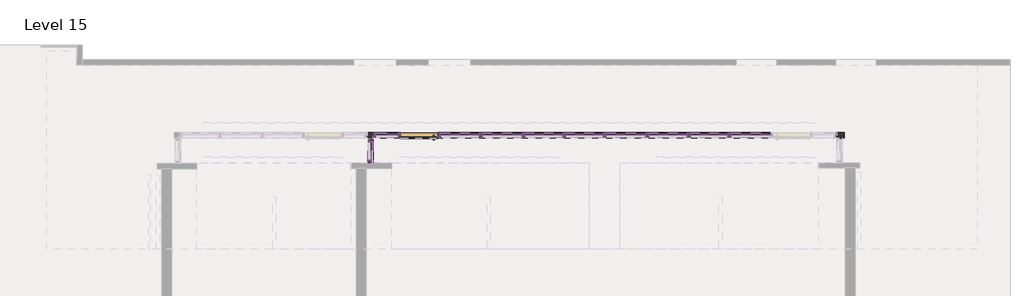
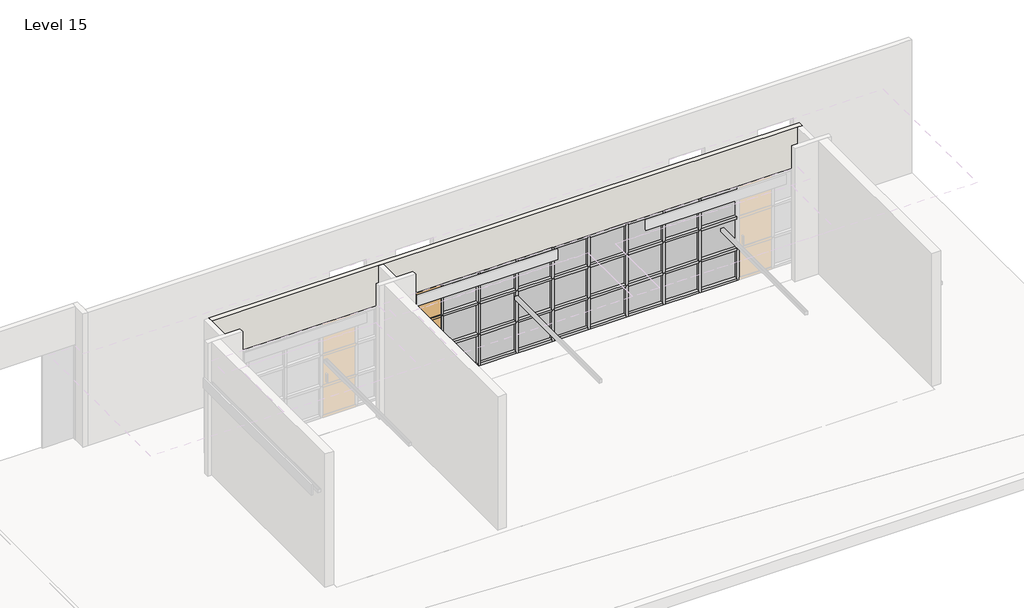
# One storey, part 5 of 11: 77 members, 29 plates, 1 door, 1 wall.
"""IFC4 building model written with IfcOpenShell, lengths in millimetres."""

from ifc_helpers import new_model, si_unit, origin, place, context, project, spatial, faceted_brep, transform, mapped, element, save
from components import door_curtain_wall_single_glass_door_curtain_wall_single_wood_ac3a5db4, member_954a25dd, member_69cae7f1, member_b7368e82, member_f689fba6, member_99b0d556, member_2928588c, member_aa254800, member_33497832, member_69a911c1, member_885614b3, member_020991e8, member_0ac0aea5, system_panel_glazed_5f2f0821, system_panel_glazed_e2c65910, system_panel_glazed_83a0b09a, system_panel_glazed_51162286, system_panel_glazed_2a5f2a92, system_panel_glazed_1e867d6b, system_panel_glazed_c1d42a29, system_panel_glazed_42c55a29, system_panel_glazed_f6bd2fbf, system_panel_glazed_d9492c6f

model = new_model("IFC4")

# Units and contexts
model_context = context("Model", 3, world=origin())
ifc_project = project(units=[si_unit("LENGTHUNIT", "METRE", prefix="MILLI")], contexts=[model_context])

# Site, building, storey
site = spatial("IfcSite", under=ifc_project)
building = spatial("IfcBuilding", under=site)
storey = spatial("IfcBuildingStorey", under=building, Name="Level 15", Elevation=51206.4)

# Door
placement = place(None, origin())
door_curtain_wall_single_glass_door_curtain_wall_single_wood_shape = door_curtain_wall_single_glass_door_curtain_wall_single_wood_ac3a5db4(model_context)
element("IfcDoor", 1, ObjectType="Door-Curtain-Wall-Single-Glass : Door-Curtain-Wall-Single-Wood", at=placement, inside=storey, context=model_context, shape_type="MappedRepresentation", body=[
    mapped(door_curtain_wall_single_glass_door_curtain_wall_single_wood_shape, transform((5157.8369657, 3036.0059951, 51206.4), x_axis=(-1.0, 0.0, 0.0), y_axis=(0.0, -1.0, 0.0), z_axis=(0.0, 0.0, 1.0))),
])

# Members
member_shape = member_954a25dd(model_context)
element("IfcMember", 2, ObjectType="Rectangular Mullion : 2.5\" x 5\" rectangular", at=placement, inside=storey, context=model_context, shape_type="MappedRepresentation", body=[
    mapped(member_shape, transform((4076.4264687, 3036.0059951, 51206.4), x_axis=(-1.0, 0.0, 0.0), y_axis=(0.0, 1.0, 0.0), z_axis=(0.0, 0.0, -1.0))),
])
element("IfcMember", 3, ObjectType="Rectangular Mullion : 2.5\" x 5\" rectangular", at=placement, inside=storey, context=model_context, shape_type="MappedRepresentation", body=[
    mapped(member_shape, transform((4027.5369657, 2953.5059951, 51206.4), x_axis=(0.0, 1.0, 0.0), y_axis=(1.0, 0.0, 0.0), z_axis=(0.0, 0.0, -1.0))),
])
element("IfcMember", 4, ObjectType="Rectangular Mullion : 2.5\" x 5\" rectangular", at=placement, inside=storey, context=model_context, shape_type="MappedRepresentation", body=[
    mapped(member_shape, transform((4027.5369657, 2394.7059951, 53804.1570075), x_axis=(0.0, -1.0, 0.0), y_axis=(1.0, 0.0, 0.0), z_axis=(0.0, 0.0, 1.0))),
])
member_2_shape = member_69cae7f1(model_context)
element("IfcMember", 5, ObjectType="Rectangular Mullion : 2.5\" x 5\" rectangular", at=placement, inside=storey, context=model_context, shape_type="MappedRepresentation", body=[
    mapped(member_2_shape, transform((4700.6369657, 3036.0059951, 51206.4), x_axis=(-1.0, 0.0, 0.0), y_axis=(0.0, 1.0, 0.0), z_axis=(0.0, 0.0, -1.0))),
])
element("IfcMember", 6, ObjectType="Rectangular Mullion : 2.5\" x 5\" rectangular", at=placement, inside=storey, context=model_context, shape_type="MappedRepresentation", body=[
    mapped(member_2_shape, transform((5615.0369657, 3036.0059951, 51206.4), x_axis=(-1.0, 0.0, 0.0), y_axis=(0.0, 1.0, 0.0), z_axis=(0.0, 0.0, -1.0))),
])
element("IfcMember", 7, ObjectType="Rectangular Mullion : 2.5\" x 5\" rectangular", at=placement, inside=storey, context=model_context, shape_type="MappedRepresentation", body=[
    mapped(member_2_shape, transform((6580.2369657, 3036.0059951, 51206.4), x_axis=(-1.0, 0.0, 0.0), y_axis=(0.0, 1.0, 0.0), z_axis=(0.0, 0.0, -1.0))),
])
element("IfcMember", 8, ObjectType="Rectangular Mullion : 2.5\" x 5\" rectangular", at=placement, inside=storey, context=model_context, shape_type="MappedRepresentation", body=[
    mapped(member_2_shape, transform((7570.8369657, 3036.0059951, 51206.4), x_axis=(-1.0, 0.0, 0.0), y_axis=(0.0, 1.0, 0.0), z_axis=(0.0, 0.0, -1.0))),
])
element("IfcMember", 9, ObjectType="Rectangular Mullion : 2.5\" x 5\" rectangular", at=placement, inside=storey, context=model_context, shape_type="MappedRepresentation", body=[
    mapped(member_2_shape, transform((8510.6369657, 3036.0059951, 51206.4), x_axis=(-1.0, 0.0, 0.0), y_axis=(0.0, 1.0, 0.0), z_axis=(0.0, 0.0, -1.0))),
])
element("IfcMember", 10, ObjectType="Rectangular Mullion : 2.5\" x 5\" rectangular", at=placement, inside=storey, context=model_context, shape_type="MappedRepresentation", body=[
    mapped(member_2_shape, transform((9450.4369657, 3036.0059951, 51206.4), x_axis=(-1.0, 0.0, 0.0), y_axis=(0.0, 1.0, 0.0), z_axis=(0.0, 0.0, -1.0))),
])
element("IfcMember", 11, ObjectType="Rectangular Mullion : 2.5\" x 5\" rectangular", at=placement, inside=storey, context=model_context, shape_type="MappedRepresentation", body=[
    mapped(member_2_shape, transform((10441.0369657, 3036.0059951, 51206.4), x_axis=(-1.0, 0.0, 0.0), y_axis=(0.0, 1.0, 0.0), z_axis=(0.0, 0.0, -1.0))),
])
element("IfcMember", 12, ObjectType="Rectangular Mullion : 2.5\" x 5\" rectangular", at=placement, inside=storey, context=model_context, shape_type="MappedRepresentation", body=[
    mapped(member_2_shape, transform((11406.2369657, 3036.0059951, 51206.4), x_axis=(-1.0, 0.0, 0.0), y_axis=(0.0, 1.0, 0.0), z_axis=(0.0, 0.0, -1.0))),
])
element("IfcMember", 13, ObjectType="Rectangular Mullion : 2.5\" x 5\" rectangular", at=placement, inside=storey, context=model_context, shape_type="MappedRepresentation", body=[
    mapped(member_2_shape, transform((12346.0369657, 3036.0059951, 51206.4), x_axis=(-1.0, 0.0, 0.0), y_axis=(0.0, 1.0, 0.0), z_axis=(0.0, 0.0, -1.0))),
])
element("IfcMember", 14, ObjectType="Rectangular Mullion : 2.5\" x 5\" rectangular", at=placement, inside=storey, context=model_context, shape_type="MappedRepresentation", body=[
    mapped(member_2_shape, transform((13336.6369657, 3036.0059951, 51206.4), x_axis=(-1.0, 0.0, 0.0), y_axis=(0.0, 1.0, 0.0), z_axis=(0.0, 0.0, -1.0))),
])
member_3_shape = member_b7368e82(model_context)
element("IfcMember", 15, ObjectType="Rectangular Mullion : 2.5\" x 5\" rectangular", at=placement, inside=storey, context=model_context, shape_type="MappedRepresentation", body=[
    mapped(member_3_shape, transform((5646.7869657, 3036.0059951, 53804.1570075), x_axis=(0.0, 0.0, 1.0), y_axis=(0.0, 1.0, 0.0), z_axis=(-1.0, 0.0, 0.0))),
])
element("IfcMember", 16, ObjectType="Rectangular Mullion : 2.5\" x 5\" rectangular", at=placement, inside=storey, context=model_context, shape_type="MappedRepresentation", body=[
    mapped(member_3_shape, transform((10472.7869657, 3036.0059951, 53804.1570075), x_axis=(0.0, 0.0, 1.0), y_axis=(0.0, 1.0, 0.0), z_axis=(-1.0, 0.0, 0.0))),
])
member_4_shape = member_f689fba6(model_context)
element("IfcMember", 17, ObjectType="Rectangular Mullion : 2.5\" x 5\" rectangular", at=placement, inside=storey, context=model_context, shape_type="MappedRepresentation", body=[
    mapped(member_4_shape, transform((6611.9869657, 3036.0059951, 53804.1570075), x_axis=(0.0, 0.0, 1.0), y_axis=(0.0, 1.0, 0.0), z_axis=(-1.0, 0.0, 0.0))),
])
element("IfcMember", 18, ObjectType="Rectangular Mullion : 2.5\" x 5\" rectangular", at=placement, inside=storey, context=model_context, shape_type="MappedRepresentation", body=[
    mapped(member_4_shape, transform((9482.1869657, 3036.0059951, 53804.1570075), x_axis=(0.0, 0.0, 1.0), y_axis=(0.0, 1.0, 0.0), z_axis=(-1.0, 0.0, 0.0))),
])
element("IfcMember", 19, ObjectType="Rectangular Mullion : 2.5\" x 5\" rectangular", at=placement, inside=storey, context=model_context, shape_type="MappedRepresentation", body=[
    mapped(member_4_shape, transform((12377.7869657, 3036.0059951, 53804.1570075), x_axis=(0.0, 0.0, 1.0), y_axis=(0.0, 1.0, 0.0), z_axis=(-1.0, 0.0, 0.0))),
])
element("IfcMember", 20, ObjectType="Rectangular Mullion : 2.5\" x 5\" rectangular", at=placement, inside=storey, context=model_context, shape_type="MappedRepresentation", body=[
    mapped(member_3_shape, transform((6548.4869657, 3036.0059951, 51206.4), x_axis=(0.0, 0.0, -1.0), y_axis=(0.0, 1.0, 0.0), z_axis=(1.0, 0.0, 0.0))),
])
element("IfcMember", 21, ObjectType="Rectangular Mullion : 2.5\" x 5\" rectangular", at=placement, inside=storey, context=model_context, shape_type="MappedRepresentation", body=[
    mapped(member_3_shape, transform((11374.4869657, 3036.0059951, 51206.4), x_axis=(0.0, 0.0, -1.0), y_axis=(0.0, 1.0, 0.0), z_axis=(1.0, 0.0, 0.0))),
])
member_5_shape = member_99b0d556(model_context)
element("IfcMember", 22, ObjectType="Rectangular Mullion : 2.5\" x 5\" rectangular", at=placement, inside=storey, context=model_context, shape_type="MappedRepresentation", body=[
    mapped(member_5_shape, transform((7602.5869657, 3036.0059951, 53804.1570075), x_axis=(0.0, 0.0, 1.0), y_axis=(0.0, 1.0, 0.0), z_axis=(-1.0, 0.0, 0.0))),
])
element("IfcMember", 23, ObjectType="Rectangular Mullion : 2.5\" x 5\" rectangular", at=placement, inside=storey, context=model_context, shape_type="MappedRepresentation", body=[
    mapped(member_5_shape, transform((8542.3869657, 3036.0059951, 53804.1570075), x_axis=(0.0, 0.0, 1.0), y_axis=(0.0, 1.0, 0.0), z_axis=(-1.0, 0.0, 0.0))),
])
element("IfcMember", 24, ObjectType="Rectangular Mullion : 2.5\" x 5\" rectangular", at=placement, inside=storey, context=model_context, shape_type="MappedRepresentation", body=[
    mapped(member_5_shape, transform((11437.9869657, 3036.0059951, 53804.1570075), x_axis=(0.0, 0.0, 1.0), y_axis=(0.0, 1.0, 0.0), z_axis=(-1.0, 0.0, 0.0))),
])
element("IfcMember", 25, ObjectType="Rectangular Mullion : 2.5\" x 5\" rectangular", at=placement, inside=storey, context=model_context, shape_type="MappedRepresentation", body=[
    mapped(member_4_shape, transform((7539.0869657, 3036.0059951, 51206.4), x_axis=(0.0, 0.0, -1.0), y_axis=(0.0, 1.0, 0.0), z_axis=(1.0, 0.0, 0.0))),
])
element("IfcMember", 26, ObjectType="Rectangular Mullion : 2.5\" x 5\" rectangular", at=placement, inside=storey, context=model_context, shape_type="MappedRepresentation", body=[
    mapped(member_4_shape, transform((10409.2869657, 3036.0059951, 51206.4), x_axis=(0.0, 0.0, -1.0), y_axis=(0.0, 1.0, 0.0), z_axis=(1.0, 0.0, 0.0))),
])
element("IfcMember", 27, ObjectType="Rectangular Mullion : 2.5\" x 5\" rectangular", at=placement, inside=storey, context=model_context, shape_type="MappedRepresentation", body=[
    mapped(member_4_shape, transform((13304.8869657, 3036.0059951, 51206.4), x_axis=(0.0, 0.0, -1.0), y_axis=(0.0, 1.0, 0.0), z_axis=(1.0, 0.0, 0.0))),
])
element("IfcMember", 28, ObjectType="Rectangular Mullion : 2.5\" x 5\" rectangular", at=placement, inside=storey, context=model_context, shape_type="MappedRepresentation", body=[
    mapped(member_5_shape, transform((8478.8869657, 3036.0059951, 51206.4), x_axis=(0.0, 0.0, -1.0), y_axis=(0.0, 1.0, 0.0), z_axis=(1.0, 0.0, 0.0))),
])
element("IfcMember", 29, ObjectType="Rectangular Mullion : 2.5\" x 5\" rectangular", at=placement, inside=storey, context=model_context, shape_type="MappedRepresentation", body=[
    mapped(member_5_shape, transform((9418.6869657, 3036.0059951, 51206.4), x_axis=(0.0, 0.0, -1.0), y_axis=(0.0, 1.0, 0.0), z_axis=(1.0, 0.0, 0.0))),
])
element("IfcMember", 30, ObjectType="Rectangular Mullion : 2.5\" x 5\" rectangular", at=placement, inside=storey, context=model_context, shape_type="MappedRepresentation", body=[
    mapped(member_5_shape, transform((12314.2869657, 3036.0059951, 51206.4), x_axis=(0.0, 0.0, -1.0), y_axis=(0.0, 1.0, 0.0), z_axis=(1.0, 0.0, 0.0))),
])
member_6_shape = member_2928588c(model_context)
element("IfcMember", 31, ObjectType="Rectangular Mullion : 2.5\" x 5\" rectangular", at=placement, inside=storey, context=model_context, shape_type="MappedRepresentation", body=[
    mapped(member_6_shape, transform((12377.7869657, 3036.0059951, 52938.238005), x_axis=(0.0, 0.0, 1.0), y_axis=(0.0, 1.0, 0.0), z_axis=(-1.0, 0.0, 0.0))),
])
element("IfcMember", 32, ObjectType="Rectangular Mullion : 2.5\" x 5\" rectangular", at=placement, inside=storey, context=model_context, shape_type="MappedRepresentation", body=[
    mapped(member_6_shape, transform((9482.1869657, 3036.0059951, 52938.238005), x_axis=(0.0, 0.0, 1.0), y_axis=(0.0, 1.0, 0.0), z_axis=(-1.0, 0.0, 0.0))),
])
element("IfcMember", 33, ObjectType="Rectangular Mullion : 2.5\" x 5\" rectangular", at=placement, inside=storey, context=model_context, shape_type="MappedRepresentation", body=[
    mapped(member_6_shape, transform((6611.9869657, 3036.0059951, 52938.238005), x_axis=(0.0, 0.0, 1.0), y_axis=(0.0, 1.0, 0.0), z_axis=(-1.0, 0.0, 0.0))),
])
element("IfcMember", 34, ObjectType="Rectangular Mullion : 2.5\" x 5\" rectangular", at=placement, inside=storey, context=model_context, shape_type="MappedRepresentation", body=[
    mapped(member_6_shape, transform((12377.7869657, 3036.0059951, 52072.3190025), x_axis=(0.0, 0.0, 1.0), y_axis=(0.0, 1.0, 0.0), z_axis=(-1.0, 0.0, 0.0))),
])
element("IfcMember", 35, ObjectType="Rectangular Mullion : 2.5\" x 5\" rectangular", at=placement, inside=storey, context=model_context, shape_type="MappedRepresentation", body=[
    mapped(member_6_shape, transform((9482.1869657, 3036.0059951, 52072.3190025), x_axis=(0.0, 0.0, 1.0), y_axis=(0.0, 1.0, 0.0), z_axis=(-1.0, 0.0, 0.0))),
])
element("IfcMember", 36, ObjectType="Rectangular Mullion : 2.5\" x 5\" rectangular", at=placement, inside=storey, context=model_context, shape_type="MappedRepresentation", body=[
    mapped(member_6_shape, transform((6611.9869657, 3036.0059951, 52072.3190025), x_axis=(0.0, 0.0, 1.0), y_axis=(0.0, 1.0, 0.0), z_axis=(-1.0, 0.0, 0.0))),
])
member_7_shape = member_aa254800(model_context)
element("IfcMember", 37, ObjectType="Rectangular Mullion : 2.5\" x 5\" rectangular", at=placement, inside=storey, context=model_context, shape_type="MappedRepresentation", body=[
    mapped(member_7_shape, transform((11437.9869657, 3036.0059951, 52938.238005), x_axis=(0.0, 0.0, 1.0), y_axis=(0.0, 1.0, 0.0), z_axis=(-1.0, 0.0, 0.0))),
])
element("IfcMember", 38, ObjectType="Rectangular Mullion : 2.5\" x 5\" rectangular", at=placement, inside=storey, context=model_context, shape_type="MappedRepresentation", body=[
    mapped(member_7_shape, transform((8542.3869657, 3036.0059951, 52938.238005), x_axis=(0.0, 0.0, 1.0), y_axis=(0.0, 1.0, 0.0), z_axis=(-1.0, 0.0, 0.0))),
])
element("IfcMember", 39, ObjectType="Rectangular Mullion : 2.5\" x 5\" rectangular", at=placement, inside=storey, context=model_context, shape_type="MappedRepresentation", body=[
    mapped(member_7_shape, transform((7602.5869657, 3036.0059951, 52938.238005), x_axis=(0.0, 0.0, 1.0), y_axis=(0.0, 1.0, 0.0), z_axis=(-1.0, 0.0, 0.0))),
])
element("IfcMember", 40, ObjectType="Rectangular Mullion : 2.5\" x 5\" rectangular", at=placement, inside=storey, context=model_context, shape_type="MappedRepresentation", body=[
    mapped(member_7_shape, transform((11437.9869657, 3036.0059951, 52072.3190025), x_axis=(0.0, 0.0, 1.0), y_axis=(0.0, 1.0, 0.0), z_axis=(-1.0, 0.0, 0.0))),
])
element("IfcMember", 41, ObjectType="Rectangular Mullion : 2.5\" x 5\" rectangular", at=placement, inside=storey, context=model_context, shape_type="MappedRepresentation", body=[
    mapped(member_7_shape, transform((8542.3869657, 3036.0059951, 52072.3190025), x_axis=(0.0, 0.0, 1.0), y_axis=(0.0, 1.0, 0.0), z_axis=(-1.0, 0.0, 0.0))),
])
element("IfcMember", 42, ObjectType="Rectangular Mullion : 2.5\" x 5\" rectangular", at=placement, inside=storey, context=model_context, shape_type="MappedRepresentation", body=[
    mapped(member_7_shape, transform((7602.5869657, 3036.0059951, 52072.3190025), x_axis=(0.0, 0.0, 1.0), y_axis=(0.0, 1.0, 0.0), z_axis=(-1.0, 0.0, 0.0))),
])
member_8_shape = member_33497832(model_context)
element("IfcMember", 43, ObjectType="Rectangular Mullion : 2.5\" x 5\" rectangular", at=placement, inside=storey, context=model_context, shape_type="MappedRepresentation", body=[
    mapped(member_8_shape, transform((10472.7869657, 3036.0059951, 52938.238005), x_axis=(0.0, 0.0, 1.0), y_axis=(0.0, 1.0, 0.0), z_axis=(-1.0, 0.0, 0.0))),
])
element("IfcMember", 44, ObjectType="Rectangular Mullion : 2.5\" x 5\" rectangular", at=placement, inside=storey, context=model_context, shape_type="MappedRepresentation", body=[
    mapped(member_8_shape, transform((5646.7869657, 3036.0059951, 52938.238005), x_axis=(0.0, 0.0, 1.0), y_axis=(0.0, 1.0, 0.0), z_axis=(-1.0, 0.0, 0.0))),
])
element("IfcMember", 45, ObjectType="Rectangular Mullion : 2.5\" x 5\" rectangular", at=placement, inside=storey, context=model_context, shape_type="MappedRepresentation", body=[
    mapped(member_8_shape, transform((10472.7869657, 3036.0059951, 52072.3190025), x_axis=(0.0, 0.0, 1.0), y_axis=(0.0, 1.0, 0.0), z_axis=(-1.0, 0.0, 0.0))),
])
element("IfcMember", 46, ObjectType="Rectangular Mullion : 2.5\" x 5\" rectangular", at=placement, inside=storey, context=model_context, shape_type="MappedRepresentation", body=[
    mapped(member_8_shape, transform((5646.7869657, 3036.0059951, 52072.3190025), x_axis=(0.0, 0.0, 1.0), y_axis=(0.0, 1.0, 0.0), z_axis=(-1.0, 0.0, 0.0))),
])
element("IfcMember", 47, ObjectType="Rectangular Mullion : 2.5\" x 5\" rectangular", at=placement, inside=storey, context=model_context, shape_type="MappedRepresentation", body=[
    mapped(member_2_shape, transform((12346.0369657, 3036.0059951, 52938.238005), x_axis=(-1.0, 0.0, 0.0), y_axis=(0.0, 1.0, 0.0), z_axis=(0.0, 0.0, -1.0))),
])
element("IfcMember", 48, ObjectType="Rectangular Mullion : 2.5\" x 5\" rectangular", at=placement, inside=storey, context=model_context, shape_type="MappedRepresentation", body=[
    mapped(member_2_shape, transform((11406.2369657, 3036.0059951, 52938.238005), x_axis=(-1.0, 0.0, 0.0), y_axis=(0.0, 1.0, 0.0), z_axis=(0.0, 0.0, -1.0))),
])
element("IfcMember", 49, ObjectType="Rectangular Mullion : 2.5\" x 5\" rectangular", at=placement, inside=storey, context=model_context, shape_type="MappedRepresentation", body=[
    mapped(member_2_shape, transform((10441.0369657, 3036.0059951, 52938.238005), x_axis=(-1.0, 0.0, 0.0), y_axis=(0.0, 1.0, 0.0), z_axis=(0.0, 0.0, -1.0))),
])
element("IfcMember", 50, ObjectType="Rectangular Mullion : 2.5\" x 5\" rectangular", at=placement, inside=storey, context=model_context, shape_type="MappedRepresentation", body=[
    mapped(member_2_shape, transform((9450.4369657, 3036.0059951, 52938.238005), x_axis=(-1.0, 0.0, 0.0), y_axis=(0.0, 1.0, 0.0), z_axis=(0.0, 0.0, -1.0))),
])
element("IfcMember", 51, ObjectType="Rectangular Mullion : 2.5\" x 5\" rectangular", at=placement, inside=storey, context=model_context, shape_type="MappedRepresentation", body=[
    mapped(member_2_shape, transform((8510.6369657, 3036.0059951, 52938.238005), x_axis=(-1.0, 0.0, 0.0), y_axis=(0.0, 1.0, 0.0), z_axis=(0.0, 0.0, -1.0))),
])
element("IfcMember", 52, ObjectType="Rectangular Mullion : 2.5\" x 5\" rectangular", at=placement, inside=storey, context=model_context, shape_type="MappedRepresentation", body=[
    mapped(member_2_shape, transform((7570.8369657, 3036.0059951, 52938.238005), x_axis=(-1.0, 0.0, 0.0), y_axis=(0.0, 1.0, 0.0), z_axis=(0.0, 0.0, -1.0))),
])
element("IfcMember", 53, ObjectType="Rectangular Mullion : 2.5\" x 5\" rectangular", at=placement, inside=storey, context=model_context, shape_type="MappedRepresentation", body=[
    mapped(member_2_shape, transform((6580.2369657, 3036.0059951, 52938.238005), x_axis=(-1.0, 0.0, 0.0), y_axis=(0.0, 1.0, 0.0), z_axis=(0.0, 0.0, -1.0))),
])
element("IfcMember", 54, ObjectType="Rectangular Mullion : 2.5\" x 5\" rectangular", at=placement, inside=storey, context=model_context, shape_type="MappedRepresentation", body=[
    mapped(member_2_shape, transform((5615.0369657, 3036.0059951, 52938.238005), x_axis=(-1.0, 0.0, 0.0), y_axis=(0.0, 1.0, 0.0), z_axis=(0.0, 0.0, -1.0))),
])
element("IfcMember", 55, ObjectType="Rectangular Mullion : 2.5\" x 5\" rectangular", at=placement, inside=storey, context=model_context, shape_type="MappedRepresentation", body=[
    mapped(member_2_shape, transform((4700.6369657, 3036.0059951, 52938.238005), x_axis=(-1.0, 0.0, 0.0), y_axis=(0.0, 1.0, 0.0), z_axis=(0.0, 0.0, -1.0))),
])
element("IfcMember", 56, ObjectType="Rectangular Mullion : 2.5\" x 5\" rectangular", at=placement, inside=storey, context=model_context, shape_type="MappedRepresentation", body=[
    mapped(member_2_shape, transform((12346.0369657, 3036.0059951, 52072.3190025), x_axis=(-1.0, 0.0, 0.0), y_axis=(0.0, 1.0, 0.0), z_axis=(0.0, 0.0, -1.0))),
])
element("IfcMember", 57, ObjectType="Rectangular Mullion : 2.5\" x 5\" rectangular", at=placement, inside=storey, context=model_context, shape_type="MappedRepresentation", body=[
    mapped(member_2_shape, transform((11406.2369657, 3036.0059951, 52072.3190025), x_axis=(-1.0, 0.0, 0.0), y_axis=(0.0, 1.0, 0.0), z_axis=(0.0, 0.0, -1.0))),
])
element("IfcMember", 58, ObjectType="Rectangular Mullion : 2.5\" x 5\" rectangular", at=placement, inside=storey, context=model_context, shape_type="MappedRepresentation", body=[
    mapped(member_2_shape, transform((10441.0369657, 3036.0059951, 52072.3190025), x_axis=(-1.0, 0.0, 0.0), y_axis=(0.0, 1.0, 0.0), z_axis=(0.0, 0.0, -1.0))),
])
element("IfcMember", 59, ObjectType="Rectangular Mullion : 2.5\" x 5\" rectangular", at=placement, inside=storey, context=model_context, shape_type="MappedRepresentation", body=[
    mapped(member_2_shape, transform((9450.4369657, 3036.0059951, 52072.3190025), x_axis=(-1.0, 0.0, 0.0), y_axis=(0.0, 1.0, 0.0), z_axis=(0.0, 0.0, -1.0))),
])
element("IfcMember", 60, ObjectType="Rectangular Mullion : 2.5\" x 5\" rectangular", at=placement, inside=storey, context=model_context, shape_type="MappedRepresentation", body=[
    mapped(member_2_shape, transform((8510.6369657, 3036.0059951, 52072.3190025), x_axis=(-1.0, 0.0, 0.0), y_axis=(0.0, 1.0, 0.0), z_axis=(0.0, 0.0, -1.0))),
])
element("IfcMember", 61, ObjectType="Rectangular Mullion : 2.5\" x 5\" rectangular", at=placement, inside=storey, context=model_context, shape_type="MappedRepresentation", body=[
    mapped(member_2_shape, transform((7570.8369657, 3036.0059951, 52072.3190025), x_axis=(-1.0, 0.0, 0.0), y_axis=(0.0, 1.0, 0.0), z_axis=(0.0, 0.0, -1.0))),
])
element("IfcMember", 62, ObjectType="Rectangular Mullion : 2.5\" x 5\" rectangular", at=placement, inside=storey, context=model_context, shape_type="MappedRepresentation", body=[
    mapped(member_2_shape, transform((6580.2369657, 3036.0059951, 52072.3190025), x_axis=(-1.0, 0.0, 0.0), y_axis=(0.0, 1.0, 0.0), z_axis=(0.0, 0.0, -1.0))),
])
element("IfcMember", 63, ObjectType="Rectangular Mullion : 2.5\" x 5\" rectangular", at=placement, inside=storey, context=model_context, shape_type="MappedRepresentation", body=[
    mapped(member_2_shape, transform((5615.0369657, 3036.0059951, 52072.3190025), x_axis=(-1.0, 0.0, 0.0), y_axis=(0.0, 1.0, 0.0), z_axis=(0.0, 0.0, -1.0))),
])
element("IfcMember", 64, ObjectType="Rectangular Mullion : 2.5\" x 5\" rectangular", at=placement, inside=storey, context=model_context, shape_type="MappedRepresentation", body=[
    mapped(member_2_shape, transform((4700.6369657, 3036.0059951, 52072.3190025), x_axis=(-1.0, 0.0, 0.0), y_axis=(0.0, 1.0, 0.0), z_axis=(0.0, 0.0, -1.0))),
])
member_9_shape = member_69a911c1(model_context)
element("IfcMember", 65, ObjectType="Rectangular Mullion : 2.5\" x 5\" rectangular", at=placement, inside=storey, context=model_context, shape_type="MappedRepresentation", body=[
    mapped(member_9_shape, transform((4027.5369657, 2890.0059951, 53804.1570075), x_axis=(0.0, 0.0, 1.0), y_axis=(1.0, 0.0, 0.0), z_axis=(0.0, 1.0, 0.0))),
])
element("IfcMember", 66, ObjectType="Rectangular Mullion : 2.5\" x 5\" rectangular", at=placement, inside=storey, context=model_context, shape_type="MappedRepresentation", body=[
    mapped(member_9_shape, transform((4027.5369657, 2458.2059951, 51206.4), x_axis=(0.0, 0.0, -1.0), y_axis=(1.0, 0.0, 0.0), z_axis=(0.0, -1.0, 0.0))),
])
member_10_shape = member_885614b3(model_context)
element("IfcMember", 67, ObjectType="Rectangular Mullion : 2.5\" x 5\" rectangular", at=placement, inside=storey, context=model_context, shape_type="MappedRepresentation", body=[
    mapped(member_10_shape, transform((4027.5369657, 2890.0059951, 52938.238005), x_axis=(0.0, 0.0, 1.0), y_axis=(1.0, 0.0, 0.0), z_axis=(0.0, 1.0, 0.0))),
])
element("IfcMember", 68, ObjectType="Rectangular Mullion : 2.5\" x 5\" rectangular", at=placement, inside=storey, context=model_context, shape_type="MappedRepresentation", body=[
    mapped(member_10_shape, transform((4027.5369657, 2890.0059951, 52072.3190025), x_axis=(0.0, 0.0, 1.0), y_axis=(1.0, 0.0, 0.0), z_axis=(0.0, 1.0, 0.0))),
])
element("IfcMember", 69, ObjectType="Rectangular Mullion : 2.5\" x 5\" rectangular", at=placement, inside=storey, context=model_context, shape_type="MappedRepresentation", body=[
    mapped(member_shape, transform((4076.4264687, 3036.0059951, 52938.238005), x_axis=(-1.0, 0.0, 0.0), y_axis=(0.0, 1.0, 0.0), z_axis=(0.0, 0.0, -1.0))),
])
element("IfcMember", 70, ObjectType="Rectangular Mullion : 2.5\" x 5\" rectangular", at=placement, inside=storey, context=model_context, shape_type="MappedRepresentation", body=[
    mapped(member_shape, transform((4027.5369657, 2953.5059951, 52938.238005), x_axis=(0.0, 1.0, 0.0), y_axis=(1.0, 0.0, 0.0), z_axis=(0.0, 0.0, -1.0))),
])
element("IfcMember", 71, ObjectType="Rectangular Mullion : 2.5\" x 5\" rectangular", at=placement, inside=storey, context=model_context, shape_type="MappedRepresentation", body=[
    mapped(member_shape, transform((4027.5369657, 2394.7059951, 52938.238005), x_axis=(0.0, -1.0, 0.0), y_axis=(1.0, 0.0, 0.0), z_axis=(0.0, 0.0, 1.0))),
])
element("IfcMember", 72, ObjectType="Rectangular Mullion : 2.5\" x 5\" rectangular", at=placement, inside=storey, context=model_context, shape_type="MappedRepresentation", body=[
    mapped(member_shape, transform((4076.4264687, 3036.0059951, 52072.3190025), x_axis=(-1.0, 0.0, 0.0), y_axis=(0.0, 1.0, 0.0), z_axis=(0.0, 0.0, -1.0))),
])
element("IfcMember", 73, ObjectType="Rectangular Mullion : 2.5\" x 5\" rectangular", at=placement, inside=storey, context=model_context, shape_type="MappedRepresentation", body=[
    mapped(member_shape, transform((4027.5369657, 2953.5059951, 52072.3190025), x_axis=(0.0, 1.0, 0.0), y_axis=(1.0, 0.0, 0.0), z_axis=(0.0, 0.0, -1.0))),
])
element("IfcMember", 74, ObjectType="Rectangular Mullion : 2.5\" x 5\" rectangular", at=placement, inside=storey, context=model_context, shape_type="MappedRepresentation", body=[
    mapped(member_shape, transform((4027.5369657, 2394.7059951, 52072.3190025), x_axis=(0.0, -1.0, 0.0), y_axis=(1.0, 0.0, 0.0), z_axis=(0.0, 0.0, 1.0))),
])
member_11_shape = member_020991e8(model_context)
element("IfcMember", 75, ObjectType="Rectangular Mullion : 2.5\" x 5\" rectangular", at=placement, inside=storey, context=model_context, shape_type="MappedRepresentation", body=[
    mapped(member_11_shape, transform((4139.9264687, 3036.0059951, 53804.1570075), x_axis=(0.0, 0.0, 1.0), y_axis=(0.0, 1.0, 0.0), z_axis=(-1.0, 0.0, 0.0))),
])
element("IfcMember", 76, ObjectType="Rectangular Mullion : 2.5\" x 5\" rectangular", at=placement, inside=storey, context=model_context, shape_type="MappedRepresentation", body=[
    mapped(member_11_shape, transform((4668.8869657, 3036.0059951, 51206.4), x_axis=(0.0, 0.0, -1.0), y_axis=(0.0, 1.0, 0.0), z_axis=(1.0, 0.0, 0.0))),
])
member_12_shape = member_0ac0aea5(model_context)
element("IfcMember", 77, ObjectType="Rectangular Mullion : 2.5\" x 5\" rectangular", at=placement, inside=storey, context=model_context, shape_type="MappedRepresentation", body=[
    mapped(member_12_shape, transform((4139.9264687, 3036.0059951, 52938.238005), x_axis=(0.0, 0.0, 1.0), y_axis=(0.0, 1.0, 0.0), z_axis=(-1.0, 0.0, 0.0))),
])
element("IfcMember", 78, ObjectType="Rectangular Mullion : 2.5\" x 5\" rectangular", at=placement, inside=storey, context=model_context, shape_type="MappedRepresentation", body=[
    mapped(member_12_shape, transform((4139.9264687, 3036.0059951, 52072.3190025), x_axis=(0.0, 0.0, 1.0), y_axis=(0.0, 1.0, 0.0), z_axis=(-1.0, 0.0, 0.0))),
])

# Plates
system_panel_glazed_shape = system_panel_glazed_5f2f0821(model_context)
element("IfcPlate", 79, ObjectType="System Panel : Glazed", at=placement, inside=storey, context=model_context, shape_type="MappedRepresentation", body=[
    mapped(system_panel_glazed_shape, transform((4027.5369657, 2674.1059951, 52969.988005), x_axis=(0.0, 1.0, 0.0), y_axis=(-1.0, 0.0, 0.0), z_axis=(0.0, 0.0, 1.0))),
])
system_panel_glazed_2_shape = system_panel_glazed_e2c65910(model_context)
element("IfcPlate", 80, ObjectType="System Panel : Glazed", at=placement, inside=storey, context=model_context, shape_type="MappedRepresentation", body=[
    mapped(system_panel_glazed_2_shape, transform((6097.6369657, 3036.0059951, 51269.9), x_axis=(-1.0, 0.0, 0.0), y_axis=(0.0, -1.0, 0.0), z_axis=(0.0, 0.0, 1.0))),
])
element("IfcPlate", 81, ObjectType="System Panel : Glazed", at=placement, inside=storey, context=model_context, shape_type="MappedRepresentation", body=[
    mapped(system_panel_glazed_2_shape, transform((10923.6369657, 3036.0059951, 51269.9), x_axis=(-1.0, 0.0, 0.0), y_axis=(0.0, -1.0, 0.0), z_axis=(0.0, 0.0, 1.0))),
])
element("IfcPlate", 82, ObjectType="System Panel : Glazed", at=placement, inside=storey, context=model_context, shape_type="MappedRepresentation", body=[
    mapped(system_panel_glazed_2_shape, transform((10923.6369657, 3036.0059951, 52969.988005), x_axis=(-1.0, 0.0, 0.0), y_axis=(0.0, -1.0, 0.0), z_axis=(0.0, 0.0, 1.0))),
])
element("IfcPlate", 83, ObjectType="System Panel : Glazed", at=placement, inside=storey, context=model_context, shape_type="MappedRepresentation", body=[
    mapped(system_panel_glazed_2_shape, transform((6097.6369657, 3036.0059951, 52969.988005), x_axis=(-1.0, 0.0, 0.0), y_axis=(0.0, -1.0, 0.0), z_axis=(0.0, 0.0, 1.0))),
])
system_panel_glazed_3_shape = system_panel_glazed_83a0b09a(model_context)
element("IfcPlate", 84, ObjectType="System Panel : Glazed", at=placement, inside=storey, context=model_context, shape_type="MappedRepresentation", body=[
    mapped(system_panel_glazed_3_shape, transform((7075.5369657, 3036.0059951, 51269.9), x_axis=(-1.0, 0.0, 0.0), y_axis=(0.0, -1.0, 0.0), z_axis=(0.0, 0.0, 1.0))),
])
element("IfcPlate", 85, ObjectType="System Panel : Glazed", at=placement, inside=storey, context=model_context, shape_type="MappedRepresentation", body=[
    mapped(system_panel_glazed_3_shape, transform((9945.7369657, 3036.0059951, 51269.9), x_axis=(-1.0, 0.0, 0.0), y_axis=(0.0, -1.0, 0.0), z_axis=(0.0, 0.0, 1.0))),
])
element("IfcPlate", 86, ObjectType="System Panel : Glazed", at=placement, inside=storey, context=model_context, shape_type="MappedRepresentation", body=[
    mapped(system_panel_glazed_3_shape, transform((12841.3369657, 3036.0059951, 51269.9), x_axis=(-1.0, 0.0, 0.0), y_axis=(0.0, -1.0, 0.0), z_axis=(0.0, 0.0, 1.0))),
])
element("IfcPlate", 87, ObjectType="System Panel : Glazed", at=placement, inside=storey, context=model_context, shape_type="MappedRepresentation", body=[
    mapped(system_panel_glazed_3_shape, transform((12841.3369657, 3036.0059951, 52969.988005), x_axis=(-1.0, 0.0, 0.0), y_axis=(0.0, -1.0, 0.0), z_axis=(0.0, 0.0, 1.0))),
])
element("IfcPlate", 88, ObjectType="System Panel : Glazed", at=placement, inside=storey, context=model_context, shape_type="MappedRepresentation", body=[
    mapped(system_panel_glazed_3_shape, transform((9945.7369657, 3036.0059951, 52969.988005), x_axis=(-1.0, 0.0, 0.0), y_axis=(0.0, -1.0, 0.0), z_axis=(0.0, 0.0, 1.0))),
])
element("IfcPlate", 89, ObjectType="System Panel : Glazed", at=placement, inside=storey, context=model_context, shape_type="MappedRepresentation", body=[
    mapped(system_panel_glazed_3_shape, transform((7075.5369657, 3036.0059951, 52969.988005), x_axis=(-1.0, 0.0, 0.0), y_axis=(0.0, -1.0, 0.0), z_axis=(0.0, 0.0, 1.0))),
])
system_panel_glazed_4_shape = system_panel_glazed_51162286(model_context)
element("IfcPlate", 90, ObjectType="System Panel : Glazed", at=placement, inside=storey, context=model_context, shape_type="MappedRepresentation", body=[
    mapped(system_panel_glazed_4_shape, transform((8040.7369657, 3036.0059951, 51269.9), x_axis=(-1.0, 0.0, 0.0), y_axis=(0.0, -1.0, 0.0), z_axis=(0.0, 0.0, 1.0))),
])
element("IfcPlate", 91, ObjectType="System Panel : Glazed", at=placement, inside=storey, context=model_context, shape_type="MappedRepresentation", body=[
    mapped(system_panel_glazed_4_shape, transform((8980.5369657, 3036.0059951, 51269.9), x_axis=(-1.0, 0.0, 0.0), y_axis=(0.0, -1.0, 0.0), z_axis=(0.0, 0.0, 1.0))),
])
element("IfcPlate", 92, ObjectType="System Panel : Glazed", at=placement, inside=storey, context=model_context, shape_type="MappedRepresentation", body=[
    mapped(system_panel_glazed_4_shape, transform((11876.1369657, 3036.0059951, 51269.9), x_axis=(-1.0, 0.0, 0.0), y_axis=(0.0, -1.0, 0.0), z_axis=(0.0, 0.0, 1.0))),
])
element("IfcPlate", 93, ObjectType="System Panel : Glazed", at=placement, inside=storey, context=model_context, shape_type="MappedRepresentation", body=[
    mapped(system_panel_glazed_4_shape, transform((11876.1369657, 3036.0059951, 52969.988005), x_axis=(-1.0, 0.0, 0.0), y_axis=(0.0, -1.0, 0.0), z_axis=(0.0, 0.0, 1.0))),
])
element("IfcPlate", 94, ObjectType="System Panel : Glazed", at=placement, inside=storey, context=model_context, shape_type="MappedRepresentation", body=[
    mapped(system_panel_glazed_4_shape, transform((8980.5369657, 3036.0059951, 52969.988005), x_axis=(-1.0, 0.0, 0.0), y_axis=(0.0, -1.0, 0.0), z_axis=(0.0, 0.0, 1.0))),
])
element("IfcPlate", 95, ObjectType="System Panel : Glazed", at=placement, inside=storey, context=model_context, shape_type="MappedRepresentation", body=[
    mapped(system_panel_glazed_4_shape, transform((8040.7369657, 3036.0059951, 52969.988005), x_axis=(-1.0, 0.0, 0.0), y_axis=(0.0, -1.0, 0.0), z_axis=(0.0, 0.0, 1.0))),
])
system_panel_glazed_5_shape = system_panel_glazed_2a5f2a92(model_context)
element("IfcPlate", 96, ObjectType="System Panel : Glazed", at=placement, inside=storey, context=model_context, shape_type="MappedRepresentation", body=[
    mapped(system_panel_glazed_5_shape, transform((12841.3369657, 3036.0059951, 52104.0690025), x_axis=(-1.0, 0.0, 0.0), y_axis=(0.0, -1.0, 0.0), z_axis=(0.0, 0.0, 1.0))),
])
element("IfcPlate", 97, ObjectType="System Panel : Glazed", at=placement, inside=storey, context=model_context, shape_type="MappedRepresentation", body=[
    mapped(system_panel_glazed_5_shape, transform((9945.7369657, 3036.0059951, 52104.0690025), x_axis=(-1.0, 0.0, 0.0), y_axis=(0.0, -1.0, 0.0), z_axis=(0.0, 0.0, 1.0))),
])
element("IfcPlate", 98, ObjectType="System Panel : Glazed", at=placement, inside=storey, context=model_context, shape_type="MappedRepresentation", body=[
    mapped(system_panel_glazed_5_shape, transform((7075.5369657, 3036.0059951, 52104.0690025), x_axis=(-1.0, 0.0, 0.0), y_axis=(0.0, -1.0, 0.0), z_axis=(0.0, 0.0, 1.0))),
])
system_panel_glazed_6_shape = system_panel_glazed_1e867d6b(model_context)
element("IfcPlate", 99, ObjectType="System Panel : Glazed", at=placement, inside=storey, context=model_context, shape_type="MappedRepresentation", body=[
    mapped(system_panel_glazed_6_shape, transform((11876.1369657, 3036.0059951, 52104.0690025), x_axis=(-1.0, 0.0, 0.0), y_axis=(0.0, -1.0, 0.0), z_axis=(0.0, 0.0, 1.0))),
])
element("IfcPlate", 100, ObjectType="System Panel : Glazed", at=placement, inside=storey, context=model_context, shape_type="MappedRepresentation", body=[
    mapped(system_panel_glazed_6_shape, transform((8980.5369657, 3036.0059951, 52104.0690025), x_axis=(-1.0, 0.0, 0.0), y_axis=(0.0, -1.0, 0.0), z_axis=(0.0, 0.0, 1.0))),
])
element("IfcPlate", 101, ObjectType="System Panel : Glazed", at=placement, inside=storey, context=model_context, shape_type="MappedRepresentation", body=[
    mapped(system_panel_glazed_6_shape, transform((8040.7369657, 3036.0059951, 52104.0690025), x_axis=(-1.0, 0.0, 0.0), y_axis=(0.0, -1.0, 0.0), z_axis=(0.0, 0.0, 1.0))),
])
system_panel_glazed_7_shape = system_panel_glazed_c1d42a29(model_context)
element("IfcPlate", 102, ObjectType="System Panel : Glazed", at=placement, inside=storey, context=model_context, shape_type="MappedRepresentation", body=[
    mapped(system_panel_glazed_7_shape, transform((10923.6369657, 3036.0059951, 52104.0690025), x_axis=(-1.0, 0.0, 0.0), y_axis=(0.0, -1.0, 0.0), z_axis=(0.0, 0.0, 1.0))),
])
element("IfcPlate", 103, ObjectType="System Panel : Glazed", at=placement, inside=storey, context=model_context, shape_type="MappedRepresentation", body=[
    mapped(system_panel_glazed_7_shape, transform((6097.6369657, 3036.0059951, 52104.0690025), x_axis=(-1.0, 0.0, 0.0), y_axis=(0.0, -1.0, 0.0), z_axis=(0.0, 0.0, 1.0))),
])
system_panel_glazed_8_shape = system_panel_glazed_42c55a29(model_context)
element("IfcPlate", 104, ObjectType="System Panel : Glazed", at=placement, inside=storey, context=model_context, shape_type="MappedRepresentation", body=[
    mapped(system_panel_glazed_8_shape, transform((4027.5369657, 2674.1059951, 52104.0690025), x_axis=(0.0, 1.0, 0.0), y_axis=(-1.0, 0.0, 0.0), z_axis=(0.0, 0.0, 1.0))),
])
system_panel_glazed_9_shape = system_panel_glazed_f6bd2fbf(model_context)
element("IfcPlate", 105, ObjectType="System Panel : Glazed", at=placement, inside=storey, context=model_context, shape_type="MappedRepresentation", body=[
    mapped(system_panel_glazed_9_shape, transform((4404.4067172, 3036.0059951, 51269.9), x_axis=(-1.0, 0.0, 0.0), y_axis=(0.0, -1.0, 0.0), z_axis=(0.0, 0.0, 1.0))),
])
element("IfcPlate", 106, ObjectType="System Panel : Glazed", at=placement, inside=storey, context=model_context, shape_type="MappedRepresentation", body=[
    mapped(system_panel_glazed_9_shape, transform((4404.4067172, 3036.0059951, 52969.988005), x_axis=(-1.0, 0.0, 0.0), y_axis=(0.0, -1.0, 0.0), z_axis=(0.0, 0.0, 1.0))),
])
system_panel_glazed_10_shape = system_panel_glazed_d9492c6f(model_context)
element("IfcPlate", 107, ObjectType="System Panel : Glazed", at=placement, inside=storey, context=model_context, shape_type="MappedRepresentation", body=[
    mapped(system_panel_glazed_10_shape, transform((4404.4067172, 3036.0059951, 52104.0690025), x_axis=(-1.0, 0.0, 0.0), y_axis=(0.0, -1.0, 0.0), z_axis=(0.0, 0.0, 1.0))),
])

# Wall
element("IfcWall", 108, ObjectType="Generic - 5\"", at=placement, inside=storey, context=model_context, shape_type="Brep", body=[
    faceted_brep([(15015.6944049, 2976.416042, 54889.4), (14888.6944049, 2976.416042, 54889.4), (4076.4264687, 2976.416042, 54889.4), (3949.4264687, 2976.416042, 54889.4), (-402.1055951, 2976.416042, 54889.4), (-402.1055951, 2976.416042, 53804.1570075), (3949.4264687, 2976.416042, 53804.1570075), (3949.4264687, 2976.416042, 51206.4), (4076.4264687, 2976.416042, 51206.4), (4076.4264687, 2976.416042, 53804.1570075), (14835.1855466, 2976.416042, 53804.1570075), (14835.1855466, 2976.416042, 51206.4), (14888.6944049, 2976.416042, 51206.4), (15015.6944049, 2976.416042, 51206.4), (-402.1055951, 3103.416042, 54889.4), (15015.6944049, 3103.416042, 54889.4), (15015.6944049, 3103.416042, 51206.4), (14835.1855466, 3103.416042, 51206.4), (14835.1855466, 3103.416042, 53804.1570075), (4076.4264687, 3103.416042, 53804.1570075), (4076.4264687, 3103.416042, 51206.4), (3949.4264687, 3103.416042, 51206.4), (3949.4264687, 3103.416042, 53804.1570075), (-402.1055951, 3103.416042, 53804.1570075)], [[[0, 1, 2, 3, 4, 5, 6, 7, 8, 9, 10, 11, 12, 13]], [[14, 15, 16, 17, 18, 19, 20, 21, 22, 23]], [[16, 13, 12, 11, 17]], [[20, 8, 7, 21]], [[4, 3, 2, 1, 0, 15, 14]], [[4, 14, 23, 5]], [[0, 13, 16, 15]], [[10, 18, 17, 11]], [[18, 10, 9, 19]], [[19, 9, 8, 20]], [[6, 22, 21, 7]], [[22, 6, 5, 23]]]),
])

save(model, "model.ifc")
